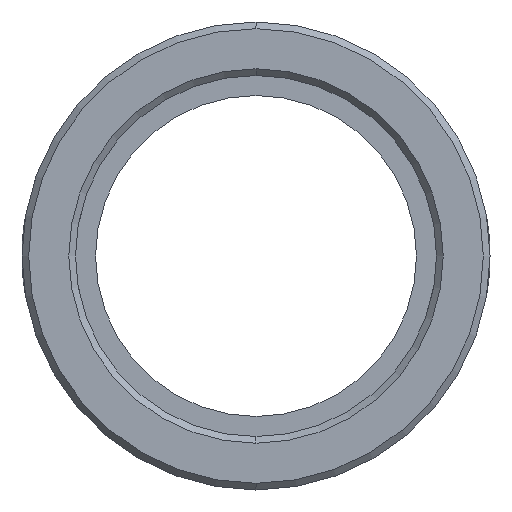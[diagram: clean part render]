
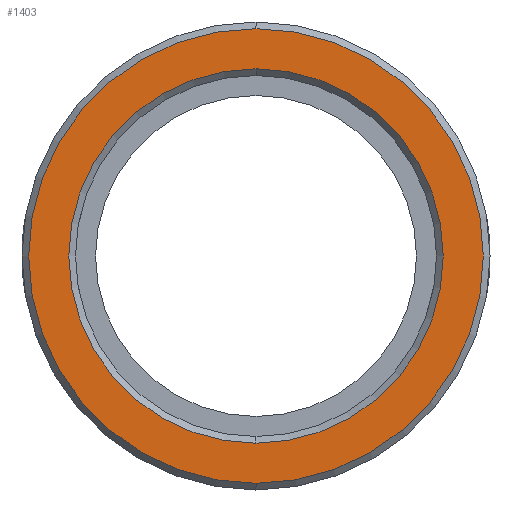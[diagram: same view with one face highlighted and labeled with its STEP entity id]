
A CAD part, left-side view. The second image highlights one B-rep face of the part: STEP entity #1403.
In plain terms, the highlighted planar face has unit normal (-1, 0, 0).
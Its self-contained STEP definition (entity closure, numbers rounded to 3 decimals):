
#16 = CARTESIAN_POINT ( 'NONE',  ( 0., 0., 14. ) ) ;
#46 = CIRCLE ( 'NONE', #667, 14. ) ;
#59 = DIRECTION ( 'NONE',  ( 1., 0., 0. ) ) ;
#87 = DIRECTION ( 'NONE',  ( 0., 0., -1. ) ) ;
#121 = FACE_BOUND ( 'NONE', #765, .T. ) ;
#143 = CIRCLE ( 'NONE', #1167, 14. ) ;
#206 = AXIS2_PLACEMENT_3D ( 'NONE', #367, #358, #349 ) ;
#215 = FACE_OUTER_BOUND ( 'NONE', #799, .T. ) ;
#245 = VERTEX_POINT ( 'NONE', #16 ) ;
#258 = ORIENTED_EDGE ( 'NONE', *, *, #1364, .T. ) ;
#349 = DIRECTION ( 'NONE',  ( 0., 0., -1. ) ) ;
#358 = DIRECTION ( 'NONE',  ( -1., 0., 0. ) ) ;
#367 = CARTESIAN_POINT ( 'NONE',  ( 0., 0., 0. ) ) ;
#421 = CARTESIAN_POINT ( 'NONE',  ( 0., 0., 0. ) ) ;
#424 = DIRECTION ( 'NONE',  ( 1., 0., 0. ) ) ;
#429 = DIRECTION ( 'NONE',  ( 0., 0., -1. ) ) ;
#441 = CARTESIAN_POINT ( 'NONE',  ( 0., 0., 17. ) ) ;
#575 = VERTEX_POINT ( 'NONE', #1266 ) ;
#600 = CIRCLE ( 'NONE', #1378, 17. ) ;
#667 = AXIS2_PLACEMENT_3D ( 'NONE', #1142, #1143, #1148 ) ;
#765 = EDGE_LOOP ( 'NONE', ( #1270, #982 ) ) ;
#799 = EDGE_LOOP ( 'NONE', ( #1176, #258 ) ) ;
#877 = VERTEX_POINT ( 'NONE', #441 ) ;
#895 = CIRCLE ( 'NONE', #206, 17. ) ;
#953 = EDGE_CURVE ( 'NONE', #1447, #877, #895, .T. ) ;
#982 = ORIENTED_EDGE ( 'NONE', *, *, #1068, .T. ) ;
#1043 = CARTESIAN_POINT ( 'NONE',  ( 0., 0., -17. ) ) ;
#1068 = EDGE_CURVE ( 'NONE', #575, #245, #143, .T. ) ;
#1142 = CARTESIAN_POINT ( 'NONE',  ( 0., 0., 0. ) ) ;
#1143 = DIRECTION ( 'NONE',  ( 1., 0., 0. ) ) ;
#1148 = DIRECTION ( 'NONE',  ( 0., 0., -1. ) ) ;
#1167 = AXIS2_PLACEMENT_3D ( 'NONE', #421, #424, #429 ) ;
#1176 = ORIENTED_EDGE ( 'NONE', *, *, #953, .T. ) ;
#1200 = CARTESIAN_POINT ( 'NONE',  ( 0., 0., 0. ) ) ;
#1212 = CARTESIAN_POINT ( 'NONE',  ( 0., 13.5, 0. ) ) ;
#1224 = EDGE_CURVE ( 'NONE', #245, #575, #46, .T. ) ;
#1246 = PLANE ( 'NONE',  #1389 ) ;
#1266 = CARTESIAN_POINT ( 'NONE',  ( 0., 0., -14. ) ) ;
#1270 = ORIENTED_EDGE ( 'NONE', *, *, #1224, .T. ) ;
#1348 = DIRECTION ( 'NONE',  ( -1., 0., 0. ) ) ;
#1364 = EDGE_CURVE ( 'NONE', #877, #1447, #600, .T. ) ;
#1372 = DIRECTION ( 'NONE',  ( 0., 0., -1. ) ) ;
#1378 = AXIS2_PLACEMENT_3D ( 'NONE', #1200, #1348, #1372 ) ;
#1389 = AXIS2_PLACEMENT_3D ( 'NONE', #1212, #59, #87 ) ;
#1403 = ADVANCED_FACE ( 'NONE', ( #121, #215 ), #1246, .F. ) ;
#1447 = VERTEX_POINT ( 'NONE', #1043 ) ;
